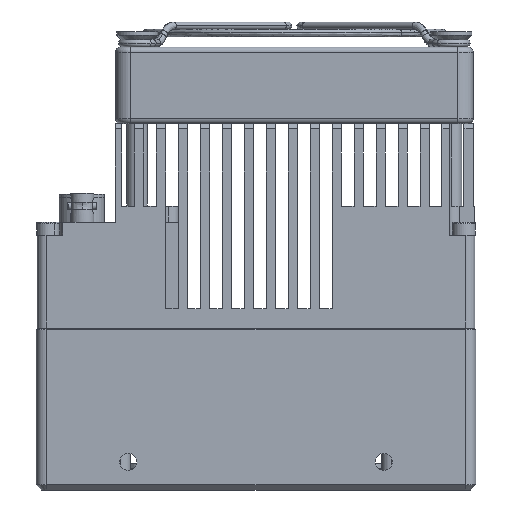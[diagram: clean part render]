
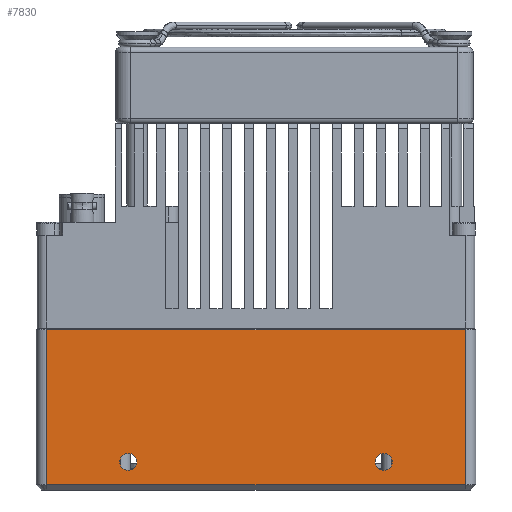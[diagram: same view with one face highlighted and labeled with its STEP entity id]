
A CAD part, front view. The second image highlights one B-rep face of the part: STEP entity #7830.
In plain terms, the highlighted planar face has unit normal (0, -1, 0).
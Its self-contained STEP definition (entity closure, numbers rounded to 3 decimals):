
#511 = VERTEX_POINT ( 'NONE', #43057 ) ;
#879 = CARTESIAN_POINT ( 'NONE',  ( 22.857, -47.262, 67.506 ) ) ;
#2666 = ORIENTED_EDGE ( 'NONE', *, *, #43745, .T. ) ;
#4187 = VERTEX_POINT ( 'NONE', #7277 ) ;
#4958 = FACE_BOUND ( 'NONE', #21162, .T. ) ;
#6579 = CARTESIAN_POINT ( 'NONE',  ( -43.143, -47.262, 70.356 ) ) ;
#7196 = CARTESIAN_POINT ( 'NONE',  ( 24.857, -47.262, 67.506 ) ) ;
#7277 = CARTESIAN_POINT ( 'NONE',  ( -59.143, -47.262, 67.506 ) ) ;
#7388 = CIRCLE ( 'NONE', #53499, 1.65 ) ;
#7830 = ADVANCED_FACE ( 'NONE', ( #43170, #4958, #49211 ), #44266, .F. ) ;
#7831 = LINE ( 'NONE', #33890, #40047 ) ;
#8276 = CARTESIAN_POINT ( 'NONE',  ( -43.143, -47.262, 73.656 ) ) ;
#9191 = DIRECTION ( 'NONE',  ( 0., 0., -1. ) ) ;
#10048 = DIRECTION ( 'NONE',  ( 0., 0., -1. ) ) ;
#10133 = CARTESIAN_POINT ( 'NONE',  ( 24.857, -47.262, 97.696 ) ) ;
#10270 = CARTESIAN_POINT ( 'NONE',  ( 6.857, -47.262, 70.356 ) ) ;
#10272 = DIRECTION ( 'NONE',  ( -1., 0., 0. ) ) ;
#10452 = EDGE_CURVE ( 'NONE', #11821, #4187, #40012, .T. ) ;
#10472 = VERTEX_POINT ( 'NONE', #10270 ) ;
#11546 = LINE ( 'NONE', #7196, #52805 ) ;
#11821 = VERTEX_POINT ( 'NONE', #25094 ) ;
#12769 = ORIENTED_EDGE ( 'NONE', *, *, #24979, .F. ) ;
#13759 = VERTEX_POINT ( 'NONE', #56811 ) ;
#14003 = CARTESIAN_POINT ( 'NONE',  ( 6.857, -47.262, 72.006 ) ) ;
#15145 = DIRECTION ( 'NONE',  ( 0., -1., 0. ) ) ;
#16194 = DIRECTION ( 'NONE',  ( 0., -1., 0. ) ) ;
#17318 = VECTOR ( 'NONE', #50144, 1000. ) ;
#18884 = VERTEX_POINT ( 'NONE', #6579 ) ;
#19372 = ORIENTED_EDGE ( 'NONE', *, *, #10452, .T. ) ;
#19858 = CARTESIAN_POINT ( 'NONE',  ( -59.143, -47.262, 97.696 ) ) ;
#21162 = EDGE_LOOP ( 'NONE', ( #48925, #47444 ) ) ;
#22395 = ORIENTED_EDGE ( 'NONE', *, *, #31399, .F. ) ;
#23539 = VECTOR ( 'NONE', #10048, 1000. ) ;
#24034 = EDGE_CURVE ( 'NONE', #13759, #11821, #7831, .T. ) ;
#24037 = DIRECTION ( 'NONE',  ( 0., -1., 0. ) ) ;
#24979 = EDGE_CURVE ( 'NONE', #18884, #39870, #47403, .T. ) ;
#25094 = CARTESIAN_POINT ( 'NONE',  ( -59.143, -47.262, 97.896 ) ) ;
#26063 = EDGE_CURVE ( 'NONE', #57910, #13759, #30051, .T. ) ;
#26452 = DIRECTION ( 'NONE',  ( 1., 0., 0. ) ) ;
#26472 = AXIS2_PLACEMENT_3D ( 'NONE', #60516, #50466, #31765 ) ;
#26641 = CARTESIAN_POINT ( 'NONE',  ( -43.143, -47.262, 72.006 ) ) ;
#29382 = DIRECTION ( 'NONE',  ( -1., 0., 0. ) ) ;
#30051 = LINE ( 'NONE', #45120, #17318 ) ;
#31399 = EDGE_CURVE ( 'NONE', #39870, #18884, #50774, .T. ) ;
#31765 = DIRECTION ( 'NONE',  ( 0., 0., -1. ) ) ;
#31994 = EDGE_LOOP ( 'NONE', ( #19372, #2666, #42743, #44332 ) ) ;
#33890 = CARTESIAN_POINT ( 'NONE',  ( 24.857, -47.262, 97.896 ) ) ;
#37028 = AXIS2_PLACEMENT_3D ( 'NONE', #10133, #53307, #29382 ) ;
#39870 = VERTEX_POINT ( 'NONE', #8276 ) ;
#40012 = LINE ( 'NONE', #19858, #23539 ) ;
#40047 = VECTOR ( 'NONE', #10272, 1000. ) ;
#42743 = ORIENTED_EDGE ( 'NONE', *, *, #26063, .T. ) ;
#43057 = CARTESIAN_POINT ( 'NONE',  ( 6.857, -47.262, 73.656 ) ) ;
#43170 = FACE_BOUND ( 'NONE', #45806, .T. ) ;
#43745 = EDGE_CURVE ( 'NONE', #4187, #57910, #11546, .T. ) ;
#44266 = PLANE ( 'NONE',  #37028 ) ;
#44332 = ORIENTED_EDGE ( 'NONE', *, *, #24034, .T. ) ;
#45120 = CARTESIAN_POINT ( 'NONE',  ( 22.857, -47.262, 97.696 ) ) ;
#45806 = EDGE_LOOP ( 'NONE', ( #12769, #22395 ) ) ;
#47273 = AXIS2_PLACEMENT_3D ( 'NONE', #26641, #16194, #49709 ) ;
#47403 = CIRCLE ( 'NONE', #47273, 1.65 ) ;
#47444 = ORIENTED_EDGE ( 'NONE', *, *, #61678, .F. ) ;
#48658 = DIRECTION ( 'NONE',  ( 0., 0., -1. ) ) ;
#48925 = ORIENTED_EDGE ( 'NONE', *, *, #53275, .F. ) ;
#49211 = FACE_OUTER_BOUND ( 'NONE', #31994, .T. ) ;
#49270 = CARTESIAN_POINT ( 'NONE',  ( -43.143, -47.262, 72.006 ) ) ;
#49709 = DIRECTION ( 'NONE',  ( 0., 0., -1. ) ) ;
#49953 = AXIS2_PLACEMENT_3D ( 'NONE', #49270, #15145, #48658 ) ;
#50144 = DIRECTION ( 'NONE',  ( 0., 0., 1. ) ) ;
#50466 = DIRECTION ( 'NONE',  ( 0., -1., 0. ) ) ;
#50774 = CIRCLE ( 'NONE', #49953, 1.65 ) ;
#52805 = VECTOR ( 'NONE', #26452, 1000. ) ;
#53275 = EDGE_CURVE ( 'NONE', #10472, #511, #7388, .T. ) ;
#53307 = DIRECTION ( 'NONE',  ( 0., 1., 0. ) ) ;
#53499 = AXIS2_PLACEMENT_3D ( 'NONE', #14003, #24037, #9191 ) ;
#54579 = CIRCLE ( 'NONE', #26472, 1.65 ) ;
#56811 = CARTESIAN_POINT ( 'NONE',  ( 22.857, -47.262, 97.896 ) ) ;
#57910 = VERTEX_POINT ( 'NONE', #879 ) ;
#60516 = CARTESIAN_POINT ( 'NONE',  ( 6.857, -47.262, 72.006 ) ) ;
#61678 = EDGE_CURVE ( 'NONE', #511, #10472, #54579, .T. ) ;
